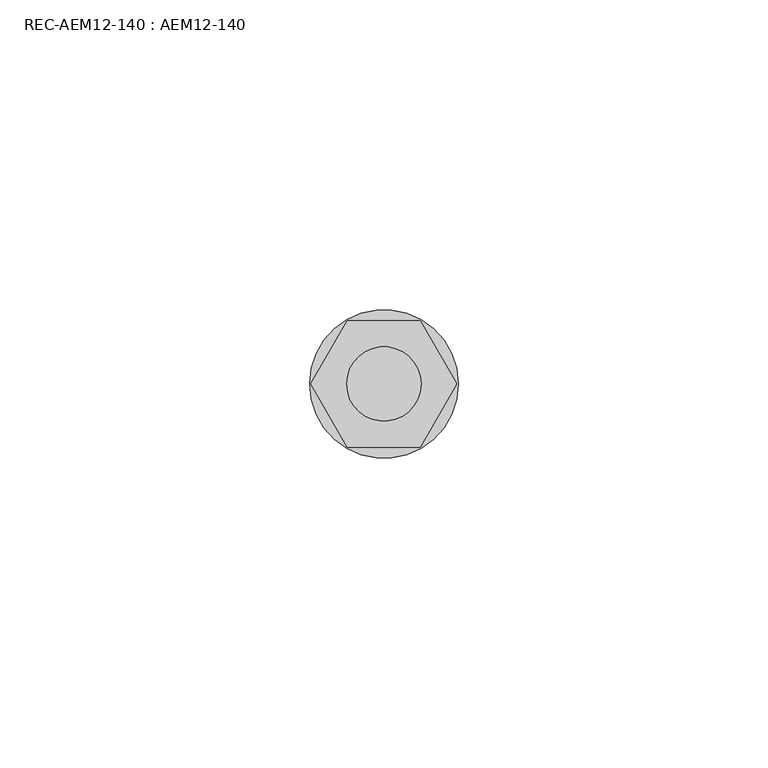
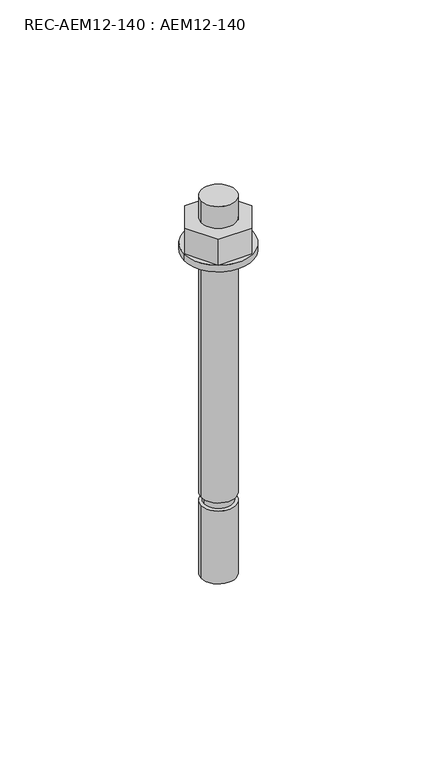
"""IFC4 building model written with IfcOpenShell, lengths in millimetres: fastener geometry, REC-AEM12-140 : AEM12-140."""

from ifc_helpers import new_model, si_unit, point, frame, origin, origin_with_axes, origin_2d, place, context, project, spatial, polyline, circle_curve, trimmed, segment, composite_curve, outline, extrude, source, transform, mapped, element, save


def rec_aem12_140_aem12_140_dcbebcd7(model_context):
    return source(origin(), model_context, "Body", "SweptSolid", [
        extrude(outline(polyline([(-5.890503, -10.20264), (-11.781, 0.0), (-5.890503, 10.20264), (5.8904909, 10.20264), (11.7809879, 0.0), (5.8904909, -10.20264), (-5.890503, -10.20264)]), holes=[composite_curve([segment(trimmed(circle_curve(origin_2d(), 6.0), [point((-6.0, 0.0))], [point((6.0, 0.0))], True, "CARTESIAN"), True, "CONTINUOUS"), segment(trimmed(circle_curve(origin_2d(), 6.0), [point((6.0, 0.0))], [point((-6.0, 0.0))], True, "CARTESIAN"), True, "CONTINUOUS")], self_intersect=False)]), frame((0.0, 0.0, 2.3999976), z_axis=(0.0, 0.0, 1.0), x_axis=(1.0, 0.0, 0.0)), (0.0, 0.0, 1.0), 9.6),
        extrude(outline(composite_curve([segment(trimmed(circle_curve(origin_2d(), 12.0), [point((-12.0, 0.0))], [point((12.0, 0.0))], False, "CARTESIAN"), True, "CONTINUOUS"), segment(trimmed(circle_curve(origin_2d(), 12.0), [point((12.0, 0.0))], [point((-12.0, 0.0))], False, "CARTESIAN"), True, "CONTINUOUS")], self_intersect=False), holes=[composite_curve([segment(trimmed(circle_curve(origin_2d(), 7.0), [point((-7.0, 0.0))], [point((7.0, 0.0))], True, "CARTESIAN"), True, "CONTINUOUS"), segment(trimmed(circle_curve(origin_2d(), 7.0), [point((7.0, 0.0))], [point((-7.0, 0.0))], True, "CARTESIAN"), True, "CONTINUOUS")], self_intersect=False)]), origin_with_axes(), (0.0, 0.0, 1.0), 2.3999976),
        extrude(outline(composite_curve([segment(trimmed(circle_curve(origin_2d(), 6.0), [point((-6.0, 0.0))], [point((6.0, 0.0))], False, "CARTESIAN"), True, "CONTINUOUS"), segment(trimmed(circle_curve(origin_2d(), 6.0), [point((6.0, 0.0))], [point((-6.0, 0.0))], False, "CARTESIAN"), True, "CONTINUOUS")], self_intersect=False)), frame((0.0, 0.0, -90.0), z_axis=(0.0, 0.0, 1.0), x_axis=(1.0, 0.0, 0.0)), (0.0, 0.0, 1.0), 110.0),
        extrude(outline(composite_curve([segment(trimmed(circle_curve(origin_2d(), 6.0), [point((-6.0, 0.0))], [point((6.0, 0.0))], False, "CARTESIAN"), True, "CONTINUOUS"), segment(trimmed(circle_curve(origin_2d(), 6.0), [point((6.0, 0.0))], [point((-6.0, 0.0))], False, "CARTESIAN"), True, "CONTINUOUS")], self_intersect=False)), frame((0.0, 0.0, -120.0), z_axis=(0.0, 0.0, 1.0), x_axis=(1.0, 0.0, 0.0)), (0.0, 0.0, 1.0), 27.0),
        extrude(outline(composite_curve([segment(trimmed(circle_curve(origin_2d(), 5.0), [point((-5.0, 0.0))], [point((5.0, 0.0))], False, "CARTESIAN"), True, "CONTINUOUS"), segment(trimmed(circle_curve(origin_2d(), 5.0), [point((5.0, 0.0))], [point((-5.0, 0.0))], False, "CARTESIAN"), True, "CONTINUOUS")], self_intersect=False)), frame((0.0, 0.0, -93.0), z_axis=(0.0, 0.0, 1.0), x_axis=(1.0, 0.0, 0.0)), (0.0, 0.0, 1.0), 3.0),
    ])


if __name__ == "__main__":
    model = new_model("IFC4")
    model_context = context("Model", 3, world=origin())
    ifc_project = project(units=[si_unit("LENGTHUNIT", "METRE", prefix="MILLI")], contexts=[model_context])
    site = spatial("IfcSite", under=ifc_project)
    building = spatial("IfcBuilding", under=site)
    placement = place(None, origin())
    rec_aem12_140_aem12_140_shape = rec_aem12_140_aem12_140_dcbebcd7(model_context)
    element("IfcFastener", 1, ObjectType="REC-AEM12-140 : AEM12-140", at=placement, inside=building, context=model_context, shape_type="MappedRepresentation", body=[
        mapped(rec_aem12_140_aem12_140_shape, transform((0.0, 0.0, 0.0), x_axis=(1.0, 0.0, 0.0), y_axis=(0.0, 1.0, 0.0), z_axis=(0.0, 0.0, 1.0))),
    ])
    save(model, "model.ifc")
